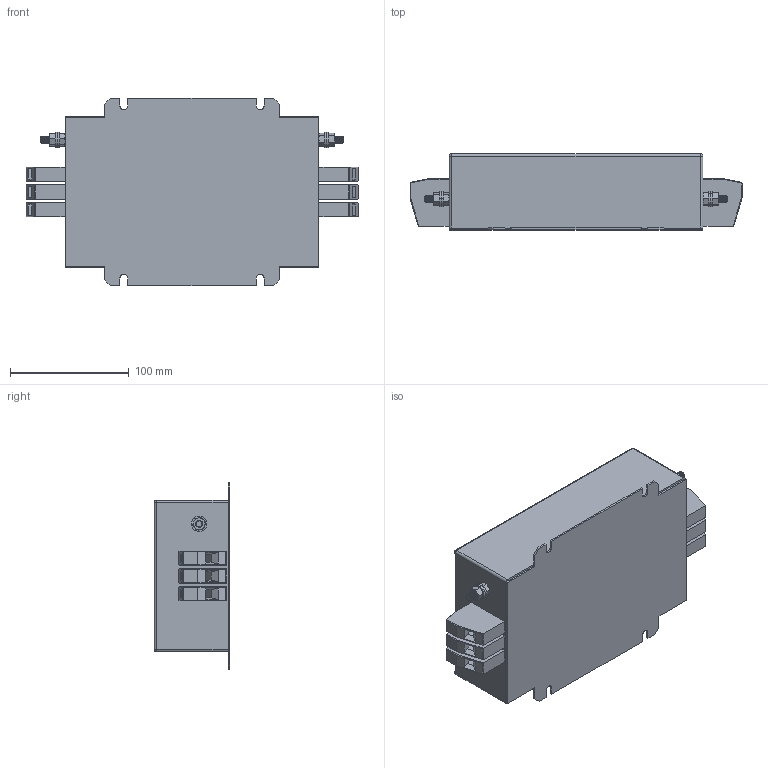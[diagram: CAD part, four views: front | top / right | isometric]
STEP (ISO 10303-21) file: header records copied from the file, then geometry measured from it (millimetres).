
FILE_DESCRIPTION (( 'STEP AP203' ), '1' );
FILE_NAME ('NF-50-FTK.STEP', '2024-04-18T16:12:10', ( '' ), ( '' ), 'SwSTEP 2.0', 'SolidWorks 2017', '' );
FILE_SCHEMA (( 'CONFIG_CONTROL_DESIGN' ));
Length unit declared in the file: millimetre
Products named in the file (7): hex screw_am_B18.6.7M - M6 x 1.0 x 16 Indented HHMS --16S; HDFK-16; NF-50-FTK; flat washer narrow_am_B18.22M - Plain washer, 6 mm, narrow; hex nut style 1_am_B18.2.4.1M - Hex nut, Style 1,  M6 x 1 --D-N; M6x16 Earth post
Assembly tree (13 placements, depth 3):
  NF-50-FTK
    NF-50-FTK
    M6x16 Earth post  x2
      flat washer narrow_am_B18.22M - Plain washer, 6 mm, narrow
      hex nut style 1_am_B18.2.4.1M - Hex nut, Style 1,  M6 x 1 --D-N
      hex screw_am_B18.6.7M - M6 x 1.0 x 16 Indented HHMS --16S
    HDFK-16  x6
Bounding box: 280.01 x 64 x 158 mm (x, y, z)
Volume: 1831931.5 mm3; surface area: 207353.5 mm2
Topology: 16 solids, 16 shells, 798 faces, 1870 edges, 1140 vertices
Faces by surface type: plane 452, cone 192, cylinder 150, sphere 4
Entity records: 9267 total; most frequent: CARTESIAN_POINT 1581, DIRECTION 1502, ORIENTED_EDGE 1364, EDGE_CURVE 682, AXIS2_PLACEMENT_3D 559, VERTEX_POINT 422, VECTOR 384, LINE 384
